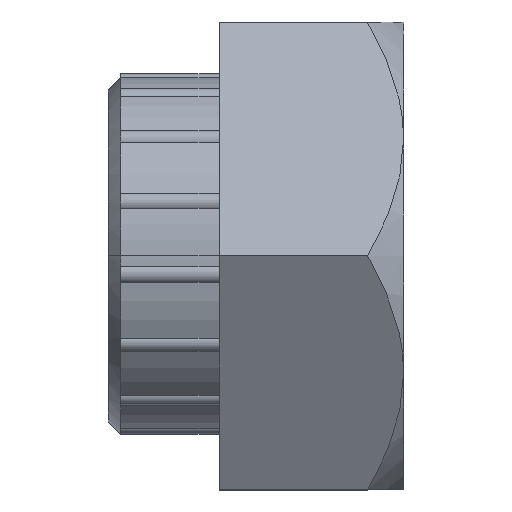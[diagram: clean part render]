
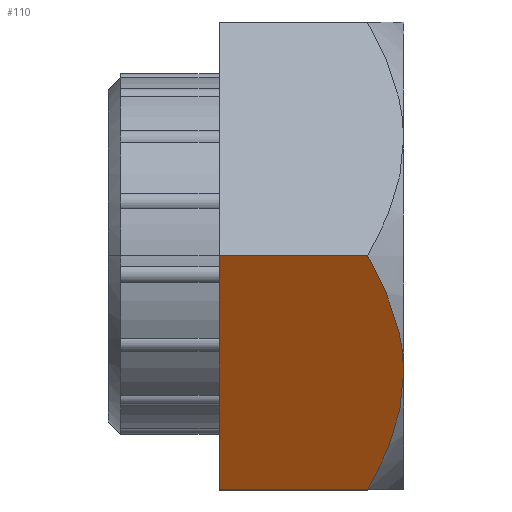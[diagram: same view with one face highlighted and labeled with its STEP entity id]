
A CAD part, top view. The second image highlights one B-rep face of the part: STEP entity #110.
In plain terms, the highlighted planar face has unit normal (0, -0.5, 0.866).
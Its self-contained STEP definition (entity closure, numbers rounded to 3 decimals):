
#33 = CARTESIAN_POINT ( 'NONE',  ( 5.82, -3.092, 9.185 ) ) ;
#45 = VERTEX_POINT ( 'NONE', #182 ) ;
#60 = CARTESIAN_POINT ( 'NONE',  ( 6., -4.75, 8.227 ) ) ;
#71 = CARTESIAN_POINT ( 'NONE',  ( 6., -4.334, 8.467 ) ) ;
#80 = CARTESIAN_POINT ( 'NONE',  ( 6., 0., 10.97 ) ) ;
#84 = EDGE_CURVE ( 'NONE', #749, #1572, #788, .T. ) ;
#110 = ADVANCED_FACE ( 'NONE', ( #1643 ), #203, .F. ) ;
#182 = CARTESIAN_POINT ( 'NONE',  ( 4.53, -9.5, 5.485 ) ) ;
#184 = CARTESIAN_POINT ( 'NONE',  ( -1.5, -9.5, 5.485 ) ) ;
#203 = PLANE ( 'NONE',  #963 ) ;
#266 = DIRECTION ( 'NONE',  ( 0., 0.5, -0.866 ) ) ;
#272 = DIRECTION ( 'NONE',  ( 0., 0.866, 0.5 ) ) ;
#290 = CARTESIAN_POINT ( 'NONE',  ( 6., -4.75, 8.227 ) ) ;
#306 = VECTOR ( 'NONE', #1250, 1000. ) ;
#339 = CARTESIAN_POINT ( 'NONE',  ( 6., 0., 10.97 ) ) ;
#419 = EDGE_LOOP ( 'NONE', ( #1486, #1857, #672, #493, #1215 ) ) ;
#493 = ORIENTED_EDGE ( 'NONE', *, *, #1428, .F. ) ;
#594 = LINE ( 'NONE', #856, #1047 ) ;
#672 = ORIENTED_EDGE ( 'NONE', *, *, #678, .F. ) ;
#678 = EDGE_CURVE ( 'NONE', #739, #45, #1015, .T. ) ;
#737 = CARTESIAN_POINT ( 'NONE',  ( 4.53, 0., 10.97 ) ) ;
#739 = VERTEX_POINT ( 'NONE', #60 ) ;
#749 = VERTEX_POINT ( 'NONE', #184 ) ;
#788 = LINE ( 'NONE', #1890, #854 ) ;
#854 = VECTOR ( 'NONE', #1963, 1000. ) ;
#856 = CARTESIAN_POINT ( 'NONE',  ( 6., -9.5, 5.485 ) ) ;
#963 = AXIS2_PLACEMENT_3D ( 'NONE', #80, #266, #272 ) ;
#987 = CARTESIAN_POINT ( 'NONE',  ( 5.326, -1.507, 10.1 ) ) ;
#1015 = B_SPLINE_CURVE_WITH_KNOTS ( 'NONE', 3,
 ( #1183, #1167, #1200, #1205, #1212, #1214 ),
 .UNSPECIFIED., .F., .F.,
 ( 4, 2, 4 ),
 ( 0.006, 0.009, 0.011 ),
 .UNSPECIFIED. ) ;
#1047 = VECTOR ( 'NONE', #1519, 1000. ) ;
#1167 = CARTESIAN_POINT ( 'NONE',  ( 6., -5.576, 7.75 ) ) ;
#1178 = VERTEX_POINT ( 'NONE', #737 ) ;
#1183 = CARTESIAN_POINT ( 'NONE',  ( 6., -4.75, 8.227 ) ) ;
#1200 = CARTESIAN_POINT ( 'NONE',  ( 5.854, -6.388, 7.281 ) ) ;
#1205 = CARTESIAN_POINT ( 'NONE',  ( 5.328, -7.99, 6.357 ) ) ;
#1212 = CARTESIAN_POINT ( 'NONE',  ( 4.96, -8.756, 5.914 ) ) ;
#1214 = CARTESIAN_POINT ( 'NONE',  ( 4.53, -9.5, 5.485 ) ) ;
#1215 = ORIENTED_EDGE ( 'NONE', *, *, #2218, .T. ) ;
#1250 = DIRECTION ( 'NONE',  ( -1., 0., 0. ) ) ;
#1280 = LINE ( 'NONE', #339, #306 ) ;
#1344 = CARTESIAN_POINT ( 'NONE',  ( 5.717, -2.69, 9.416 ) ) ;
#1428 = EDGE_CURVE ( 'NONE', #1178, #739, #1991, .T. ) ;
#1486 = ORIENTED_EDGE ( 'NONE', *, *, #84, .F. ) ;
#1519 = DIRECTION ( 'NONE',  ( -1., 0., 0. ) ) ;
#1572 = VERTEX_POINT ( 'NONE', #1746 ) ;
#1592 = CARTESIAN_POINT ( 'NONE',  ( 5.962, -3.912, 8.711 ) ) ;
#1641 = CARTESIAN_POINT ( 'NONE',  ( 4.96, -0.745, 10.54 ) ) ;
#1643 = FACE_OUTER_BOUND ( 'NONE', #419, .T. ) ;
#1746 = CARTESIAN_POINT ( 'NONE',  ( -1.5, 0., 10.97 ) ) ;
#1857 = ORIENTED_EDGE ( 'NONE', *, *, #2110, .F. ) ;
#1890 = CARTESIAN_POINT ( 'NONE',  ( -1.5, 0., 10.97 ) ) ;
#1955 = CARTESIAN_POINT ( 'NONE',  ( 4.53, 0., 10.97 ) ) ;
#1963 = DIRECTION ( 'NONE',  ( 0., 0.866, 0.5 ) ) ;
#1991 = B_SPLINE_CURVE_WITH_KNOTS ( 'NONE', 3,
 ( #1955, #1641, #987, #1344, #33, #1592, #71, #290 ),
 .UNSPECIFIED., .F., .F.,
 ( 4, 2, 2, 4 ),
 ( 0., 0.003, 0.004, 0.006 ),
 .UNSPECIFIED. ) ;
#2110 = EDGE_CURVE ( 'NONE', #45, #749, #594, .T. ) ;
#2218 = EDGE_CURVE ( 'NONE', #1178, #1572, #1280, .T. ) ;
